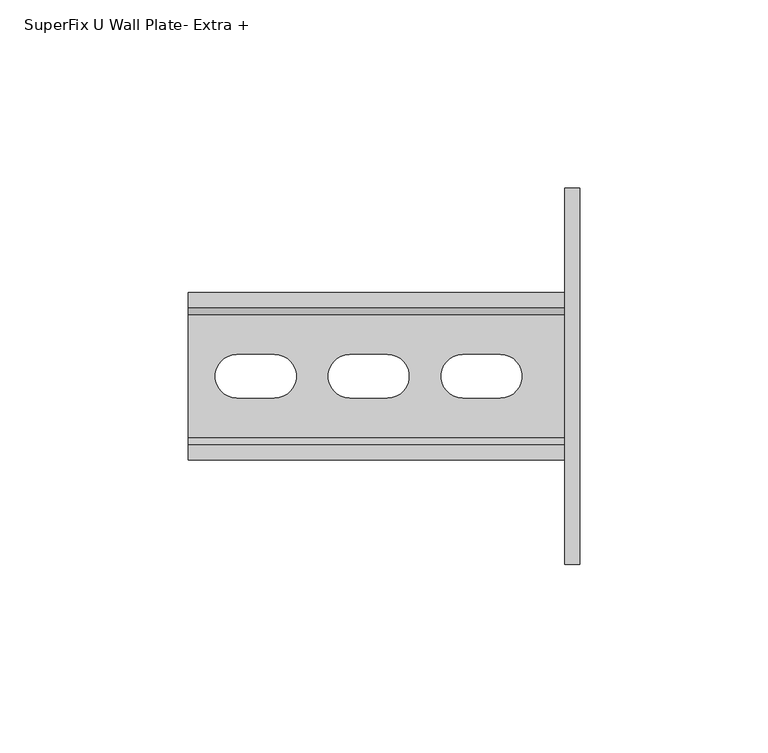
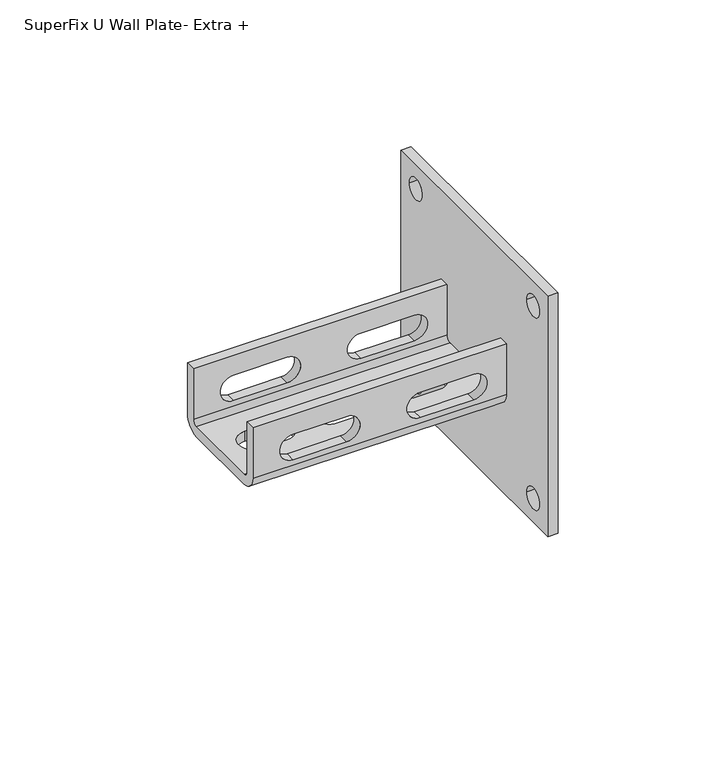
"""IFC4 building model written with IfcOpenShell, lengths in millimetres: valve geometry, SuperFix U Wall Plate  : SuperFix U Wall Plate- Extra +."""

from ifc_helpers import new_model, si_unit, point, frame, frame_2d, origin, place, context, project, spatial, polyline, circle_curve, trimmed, segment, composite_curve, outline, extrude, source, transform, mapped, element, save
from ifc_brep_helpers import plane_surface, cylinder_surface, revolved_surface, advanced_brep


def superfix_u_wall_plate_extra_745f4f27(model_context):
    return source(origin(), model_context, "Body", "SolidModel", [
        extrude(outline(polyline([(-50.0, 63.5), (50.0, 63.5), (50.0, -36.5), (-50.0, -36.5), (-50.0, 63.5)]), holes=[composite_curve([segment(trimmed(circle_curve(frame_2d((40.0, -26.5)), 4.4), [point((35.6, -26.5))], [point((44.4, -26.5))], True, "CARTESIAN"), True, "CONTINUOUS"), segment(trimmed(circle_curve(frame_2d((40.0, -26.5)), 4.4), [point((44.4, -26.5))], [point((35.6, -26.5))], True, "CARTESIAN"), True, "CONTINUOUS")], self_intersect=False), composite_curve([segment(trimmed(circle_curve(frame_2d((-40.0, -26.5)), 4.4), [point((-44.4, -26.5))], [point((-35.6, -26.5))], True, "CARTESIAN"), True, "CONTINUOUS"), segment(trimmed(circle_curve(frame_2d((-40.0, -26.5)), 4.4), [point((-35.6, -26.5))], [point((-44.4, -26.5))], True, "CARTESIAN"), True, "CONTINUOUS")], self_intersect=False), composite_curve([segment(trimmed(circle_curve(frame_2d((-40.0, 53.5)), 4.4), [point((-44.4, 53.5))], [point((-35.6, 53.5))], True, "CARTESIAN"), True, "CONTINUOUS"), segment(trimmed(circle_curve(frame_2d((-40.0, 53.5)), 4.4), [point((-35.6, 53.5))], [point((-44.4, 53.5))], True, "CARTESIAN"), True, "CONTINUOUS")], self_intersect=False), composite_curve([segment(trimmed(circle_curve(frame_2d((40.0, 53.5)), 4.4), [point((35.6, 53.5))], [point((44.4, 53.5))], True, "CARTESIAN"), True, "CONTINUOUS"), segment(trimmed(circle_curve(frame_2d((40.0, 53.5)), 4.4), [point((44.4, 53.5))], [point((35.6, 53.5))], True, "CARTESIAN"), True, "CONTINUOUS")], self_intersect=False)]), frame((-4.0, 0.0, 0.0), z_axis=(1.0, 0.0, 0.0), x_axis=(0.0, 1.0, 0.0)), (0.0, 0.0, 1.0), 4.0),
        advanced_brep(
        [(-4.0, -22.25, 6.0), (-4.0, -16.25, 0.0), (-4.0, 16.25, 0.0), (-4.0, 22.25, 6.0), (-4.0, 22.25, 27.0), (-4.0, 18.25, 27.0), (-4.0, 18.25, 6.0), (-4.0, 16.25, 4.0), (-4.0, -16.25, 4.0), (-4.0, -18.25, 6.0), (-4.0, -18.25, 27.0), (-4.0, -22.25, 27.0), (-104.0, -22.25, 6.0), (-104.0, -22.25, 27.0), (-104.0, -18.25, 27.0), (-104.0, -18.25, 6.0), (-104.0, -16.25, 4.0), (-104.0, 16.25, 4.0), (-104.0, 18.25, 6.0), (-104.0, 18.25, 27.0), (-104.0, 22.25, 27.0), (-104.0, 22.25, 6.0), (-104.0, 16.25, 0.0), (-104.0, -16.25, 0.0), (-61.0885659, 5.75, 0.0), (-61.0885659, -5.75, 0.0), (-51.0885659, -5.75, 0.0), (-51.0885659, 5.75, 0.0), (-31.0885659, 5.75, 0.0), (-31.0885659, -5.75, 0.0), (-21.0885659, -5.75, 0.0), (-21.0885659, 5.75, 0.0), (-91.0885659, 5.75, 0.0), (-91.0885659, -5.75, 0.0), (-81.0885659, -5.75, 0.0), (-81.0885659, 5.75, 0.0), (-17.1329383, 22.25, 18.75), (-38.1329383, 22.25, 18.75), (-38.1329383, 22.25, 8.2618096), (-17.1329383, 22.25, 8.2618096), (-67.1329383, 22.25, 18.75), (-88.1329383, 22.25, 18.75), (-88.1329383, 22.25, 8.2618096), (-67.1329383, 22.25, 8.2618096), (-38.1329383, 18.25, 18.75), (-17.1329383, 18.25, 18.75), (-17.1329383, 18.25, 8.2618096), (-38.1329383, 18.25, 8.2618096), (-88.1329383, 18.25, 18.75), (-67.1329383, 18.25, 18.75), (-67.1329383, 18.25, 8.2618096), (-88.1329383, 18.25, 8.2618096), (-61.0885659, -5.75, 4.0), (-61.0885659, 5.75, 4.0), (-51.0885659, 5.75, 4.0), (-51.0885659, -5.75, 4.0), (-31.0885659, -5.75, 4.0), (-31.0885659, 5.75, 4.0), (-21.0885659, 5.75, 4.0), (-21.0885659, -5.75, 4.0), (-91.0885659, -5.75, 4.0), (-91.0885659, 5.75, 4.0), (-81.0885659, 5.75, 4.0), (-81.0885659, -5.75, 4.0), (-17.1329383, -18.25, 18.75), (-38.1329383, -18.25, 18.75), (-38.1329383, -18.25, 8.2618096), (-17.1329383, -18.25, 8.2618096), (-67.1329383, -18.25, 18.75), (-88.1329383, -18.25, 18.75), (-88.1329383, -18.25, 8.2618096), (-67.1329383, -18.25, 8.2618096), (-38.1329383, -22.25, 18.75), (-17.1329383, -22.25, 18.75), (-17.1329383, -22.25, 8.2618096), (-38.1329383, -22.25, 8.2618096), (-88.1329383, -22.25, 18.75), (-67.1329383, -22.25, 18.75), (-67.1329383, -22.25, 8.2618096), (-88.1329383, -22.25, 8.2618096)],
        [
            (0, 1, circle_curve(frame((-4.0, -16.25, 6.0), z_axis=(1.0, 0.0, 0.0), x_axis=(0.0, 1.0, 0.0)), 6.0)),
            (1, 2),
            (2, 3, circle_curve(frame((-4.0, 16.25, 6.0), z_axis=(1.0, 0.0, 0.0), x_axis=(0.0, 1.0, 0.0)), 6.0)),
            (3, 4),
            (4, 5),
            (5, 6),
            (6, 7, circle_curve(frame((-4.0, 16.25, 6.0), z_axis=(-1.0, 0.0, 0.0), x_axis=(0.0, 1.0, 0.0)), 2.0)),
            (7, 8),
            (8, 9, circle_curve(frame((-4.0, -16.25, 6.0), z_axis=(-1.0, 0.0, 0.0), x_axis=(0.0, 1.0, 0.0)), 2.0)),
            (9, 10),
            (10, 11),
            (11, 0),
            (12, 13),
            (13, 14),
            (14, 15),
            (15, 16, circle_curve(frame((-104.0, -16.25, 6.0), z_axis=(1.0, 0.0, 0.0), x_axis=(0.0, 1.0, 0.0)), 2.0)),
            (16, 17),
            (17, 18, circle_curve(frame((-104.0, 16.25, 6.0), z_axis=(1.0, 0.0, 0.0), x_axis=(0.0, 1.0, 0.0)), 2.0)),
            (18, 19),
            (19, 20),
            (20, 21),
            (21, 22, circle_curve(frame((-104.0, 16.25, 6.0), z_axis=(-1.0, 0.0, 0.0), x_axis=(0.0, 1.0, 0.0)), 6.0)),
            (22, 23),
            (23, 12, circle_curve(frame((-104.0, -16.25, 6.0), z_axis=(-1.0, 0.0, 0.0), x_axis=(0.0, 1.0, 0.0)), 6.0)),
            (1, 23),
            (22, 2),
            (24, 25, circle_curve(frame((-61.0885659, 0.0, 0.0), z_axis=(0.0, 0.0, 1.0), x_axis=(1.0, 0.0, 0.0)), 5.75)),
            (25, 26),
            (26, 27, circle_curve(frame((-51.0885659, 0.0, 0.0), z_axis=(0.0, 0.0, 1.0), x_axis=(1.0, 0.0, 0.0)), 5.75)),
            (27, 24),
            (28, 29, circle_curve(frame((-31.0885659, 0.0, 0.0), z_axis=(0.0, 0.0, 1.0), x_axis=(1.0, 0.0, 0.0)), 5.75)),
            (29, 30),
            (30, 31, circle_curve(frame((-21.0885659, 0.0, 0.0), z_axis=(0.0, 0.0, 1.0), x_axis=(1.0, 0.0, 0.0)), 5.75)),
            (31, 28),
            (32, 33, circle_curve(frame((-91.0885659, 0.0, 0.0), z_axis=(0.0, 0.0, 1.0), x_axis=(1.0, 0.0, 0.0)), 5.75)),
            (33, 34),
            (34, 35, circle_curve(frame((-81.0885659, 0.0, 0.0), z_axis=(0.0, 0.0, 1.0), x_axis=(1.0, 0.0, 0.0)), 5.75)),
            (35, 32),
            (3, 21),
            (20, 4),
            (36, 37),
            (37, 38, circle_curve(frame((-38.1329383, 22.25, 13.5059048), z_axis=(0.0, -1.0, 0.0), x_axis=(0.0, 0.0, 1.0)), 5.2440952)),
            (38, 39),
            (39, 36, circle_curve(frame((-17.1329383, 22.25, 13.5059048), z_axis=(0.0, -1.0, 0.0), x_axis=(0.0, 0.0, 1.0)), 5.2440952)),
            (40, 41),
            (41, 42, circle_curve(frame((-88.1329383, 22.25, 13.5059048), z_axis=(0.0, -1.0, 0.0), x_axis=(0.0, 0.0, 1.0)), 5.2440952)),
            (42, 43),
            (43, 40, circle_curve(frame((-67.1329383, 22.25, 13.5059048), z_axis=(0.0, -1.0, 0.0), x_axis=(0.0, 0.0, 1.0)), 5.2440952)),
            (5, 19),
            (18, 6),
            (44, 45),
            (45, 46, circle_curve(frame((-17.1329383, 18.25, 13.5059048), z_axis=(0.0, 1.0, 0.0), x_axis=(0.0, 0.0, 1.0)), 5.2440952)),
            (46, 47),
            (47, 44, circle_curve(frame((-38.1329383, 18.25, 13.5059048), z_axis=(0.0, 1.0, 0.0), x_axis=(0.0, 0.0, 1.0)), 5.2440952)),
            (48, 49),
            (49, 50, circle_curve(frame((-67.1329383, 18.25, 13.5059048), z_axis=(0.0, 1.0, 0.0), x_axis=(0.0, 0.0, 1.0)), 5.2440952)),
            (50, 51),
            (51, 48, circle_curve(frame((-88.1329383, 18.25, 13.5059048), z_axis=(0.0, 1.0, 0.0), x_axis=(0.0, 0.0, 1.0)), 5.2440952)),
            (7, 17),
            (16, 8),
            (52, 53, circle_curve(frame((-61.0885659, 0.0, 4.0), z_axis=(0.0, 0.0, -1.0), x_axis=(1.0, 0.0, 0.0)), 5.75)),
            (53, 54),
            (54, 55, circle_curve(frame((-51.0885659, 0.0, 4.0), z_axis=(0.0, 0.0, -1.0), x_axis=(1.0, 0.0, 0.0)), 5.75)),
            (55, 52),
            (56, 57, circle_curve(frame((-31.0885659, 0.0, 4.0), z_axis=(0.0, 0.0, -1.0), x_axis=(1.0, 0.0, 0.0)), 5.75)),
            (57, 58),
            (58, 59, circle_curve(frame((-21.0885659, 0.0, 4.0), z_axis=(0.0, 0.0, -1.0), x_axis=(1.0, 0.0, 0.0)), 5.75)),
            (59, 56),
            (60, 61, circle_curve(frame((-91.0885659, 0.0, 4.0), z_axis=(0.0, 0.0, -1.0), x_axis=(1.0, 0.0, 0.0)), 5.75)),
            (61, 62),
            (62, 63, circle_curve(frame((-81.0885659, 0.0, 4.0), z_axis=(0.0, 0.0, -1.0), x_axis=(1.0, 0.0, 0.0)), 5.75)),
            (63, 60),
            (9, 15),
            (14, 10),
            (64, 65),
            (65, 66, circle_curve(frame((-38.1329383, -18.25, 13.5059048), z_axis=(0.0, -1.0, 0.0), x_axis=(0.0, 0.0, 1.0)), 5.2440952)),
            (66, 67),
            (67, 64, circle_curve(frame((-17.1329383, -18.25, 13.5059048), z_axis=(0.0, -1.0, 0.0), x_axis=(0.0, 0.0, 1.0)), 5.2440952)),
            (68, 69),
            (69, 70, circle_curve(frame((-88.1329383, -18.25, 13.5059048), z_axis=(0.0, -1.0, 0.0), x_axis=(0.0, 0.0, 1.0)), 5.2440952)),
            (70, 71),
            (71, 68, circle_curve(frame((-67.1329383, -18.25, 13.5059048), z_axis=(0.0, -1.0, 0.0), x_axis=(0.0, 0.0, 1.0)), 5.2440952)),
            (11, 13),
            (12, 0),
            (72, 73),
            (73, 74, circle_curve(frame((-17.1329383, -22.25, 13.5059048), z_axis=(0.0, 1.0, 0.0), x_axis=(0.0, 0.0, 1.0)), 5.2440952)),
            (74, 75),
            (75, 72, circle_curve(frame((-38.1329383, -22.25, 13.5059048), z_axis=(0.0, 1.0, 0.0), x_axis=(0.0, 0.0, 1.0)), 5.2440952)),
            (76, 77),
            (77, 78, circle_curve(frame((-67.1329383, -22.25, 13.5059048), z_axis=(0.0, 1.0, 0.0), x_axis=(0.0, 0.0, 1.0)), 5.2440952)),
            (78, 79),
            (79, 76, circle_curve(frame((-88.1329383, -22.25, 13.5059048), z_axis=(0.0, 1.0, 0.0), x_axis=(0.0, 0.0, 1.0)), 5.2440952)),
            (24, 53),
            (52, 25),
            (55, 26),
            (54, 27),
            (28, 57),
            (56, 29),
            (59, 30),
            (58, 31),
            (32, 61),
            (60, 33),
            (63, 34),
            (62, 35),
            (44, 37),
            (36, 45),
            (72, 65),
            (64, 73),
            (39, 46),
            (67, 74),
            (38, 47),
            (66, 75),
            (48, 41),
            (40, 49),
            (76, 69),
            (68, 77),
            (43, 50),
            (71, 78),
            (42, 51),
            (70, 79),
        ],
        [
            plane_surface(frame((-4.0, -10.25, 6.0), z_axis=(1.0, 0.0, 0.0), x_axis=(0.0, 0.0, 1.0))),
            plane_surface(frame((-104.0, -10.25, 6.0), z_axis=(-1.0, 0.0, 0.0), x_axis=(0.0, 0.0, -1.0))),
            plane_surface(frame((-4.0, -16.25, 0.0), z_axis=(0.0, 0.0, -1.0), x_axis=(-1.0, 0.0, 0.0))),
            plane_surface(frame((-4.0, 22.25, 6.0), z_axis=(0.0, 1.0, 0.0), x_axis=(-1.0, 0.0, 0.0))),
            plane_surface(frame((-4.0, 18.25, 27.0), z_axis=(0.0, -1.0, 0.0), x_axis=(-1.0, 0.0, 0.0))),
            plane_surface(frame((-4.0, 16.25, 4.0), z_axis=(0.0, 0.0, 1.0), x_axis=(-1.0, 0.0, 0.0))),
            plane_surface(frame((-4.0, -18.25, 6.0), z_axis=(0.0, 1.0, 0.0), x_axis=(-1.0, 0.0, 0.0))),
            plane_surface(frame((-4.0, -22.25, 27.0), z_axis=(0.0, -1.0, 0.0), x_axis=(-1.0, 0.0, 0.0))),
            cylinder_surface(frame((-104.0, -16.25, 6.0), z_axis=(1.0, 0.0, 0.0), x_axis=(0.0, 1.0, 0.0)), 6.0),
            cylinder_surface(frame((-104.0, 16.25, 6.0), z_axis=(1.0, 0.0, 0.0), x_axis=(0.0, 1.0, 0.0)), 6.0),
            plane_surface(frame((-4.0, 22.25, 27.0), z_axis=(0.0, 0.0, 1.0), x_axis=(-1.0, 0.0, 0.0))),
            revolved_surface(polyline([(-104.0, 18.25, 6.0), (-4.0, 18.25, 6.0)]), (-104.0, 16.25, 6.0), (-1.0, 0.0, 0.0)),
            revolved_surface(polyline([(-104.0, -14.25, 6.0), (-4.0, -14.25, 6.0)]), (-104.0, -16.25, 6.0), (-1.0, 0.0, 0.0)),
            plane_surface(frame((-4.0, -18.25, 27.0), z_axis=(0.0, 0.0, 1.0), x_axis=(-1.0, 0.0, 0.0))),
            revolved_surface(polyline([(-55.3385659, 0.0, 4.0), (-55.3385659, 0.0, 0.0)]), (-61.0885659, 0.0, 0.0), (0.0, 0.0, 1.0)),
            plane_surface(frame((-61.0885659, -5.75, 5.0), z_axis=(0.0, 1.0, 0.0), x_axis=(0.0, 0.0, -1.0))),
            revolved_surface(polyline([(-45.3385659, 0.0, 4.0), (-45.3385659, 0.0, 0.0)]), (-51.0885659, 0.0, 0.0), (0.0, 0.0, 1.0)),
            plane_surface(frame((-51.0885659, 5.75, 5.0), z_axis=(0.0, -1.0, 0.0), x_axis=(0.0, 0.0, -1.0))),
            revolved_surface(polyline([(-25.3385659, 0.0, 4.0), (-25.3385659, 0.0, 0.0)]), (-31.0885659, 0.0, 0.0), (0.0, 0.0, 1.0)),
            plane_surface(frame((-31.0885659, -5.75, 5.0), z_axis=(0.0, 1.0, 0.0), x_axis=(0.0, 0.0, -1.0))),
            revolved_surface(polyline([(-15.338565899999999, 0.0, 4.0), (-15.338565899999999, 0.0, 0.0)]), (-21.0885659, 0.0, 0.0), (0.0, 0.0, 1.0)),
            plane_surface(frame((-21.0885659, 5.75, 5.0), z_axis=(0.0, -1.0, 0.0), x_axis=(0.0, 0.0, -1.0))),
            revolved_surface(polyline([(-85.3385659, 0.0, 4.0), (-85.3385659, 0.0, 0.0)]), (-91.0885659, 0.0, 0.0), (0.0, 0.0, 1.0)),
            plane_surface(frame((-91.0885659, -5.75, 5.0), z_axis=(0.0, 1.0, 0.0), x_axis=(0.0, 0.0, -1.0))),
            revolved_surface(polyline([(-75.3385659, 0.0, 4.0), (-75.3385659, 0.0, 0.0)]), (-81.0885659, 0.0, 0.0), (0.0, 0.0, 1.0)),
            plane_surface(frame((-81.0885659, 5.75, 5.0), z_axis=(0.0, -1.0, 0.0), x_axis=(0.0, 0.0, -1.0))),
            plane_surface(frame((-38.1329383, 22.25, 18.75), z_axis=(0.0, 0.0, -1.0), x_axis=(0.0, -1.0, 0.0))),
            revolved_surface(polyline([(-17.1329383, 22.25, 18.75), (-17.1329383, 18.25, 18.75)]), (-17.1329383, -22.25, 13.5059048), (0.0, 1.0, 0.0)),
            revolved_surface(polyline([(-17.1329383, -18.25, 18.75), (-17.1329383, -22.25, 18.75)]), (-17.1329383, -22.25, 13.5059048), (0.0, 1.0, 0.0)),
            plane_surface(frame((-17.1329383, 22.25, 8.2618096), z_axis=(0.0, 0.0, 1.0), x_axis=(0.0, -1.0, 0.0))),
            revolved_surface(polyline([(-38.1329383, 22.25, 18.75), (-38.1329383, 18.25, 18.75)]), (-38.1329383, -22.25, 13.5059048), (0.0, 1.0, 0.0)),
            revolved_surface(polyline([(-38.1329383, -18.25, 18.75), (-38.1329383, -22.25, 18.75)]), (-38.1329383, -22.25, 13.5059048), (0.0, 1.0, 0.0)),
            plane_surface(frame((-88.1329383, 22.25, 18.75), z_axis=(0.0, 0.0, -1.0), x_axis=(0.0, -1.0, 0.0))),
            revolved_surface(polyline([(-67.1329383, 22.25, 18.75), (-67.1329383, 18.25, 18.75)]), (-67.1329383, -22.25, 13.5059048), (0.0, 1.0, 0.0)),
            revolved_surface(polyline([(-67.1329383, -18.25, 18.75), (-67.1329383, -22.25, 18.75)]), (-67.1329383, -22.25, 13.5059048), (0.0, 1.0, 0.0)),
            plane_surface(frame((-67.1329383, 22.25, 8.2618096), z_axis=(0.0, 0.0, 1.0), x_axis=(0.0, -1.0, 0.0))),
            revolved_surface(polyline([(-88.1329383, 22.25, 18.75), (-88.1329383, 18.25, 18.75)]), (-88.1329383, -22.25, 13.5059048), (0.0, 1.0, 0.0)),
            revolved_surface(polyline([(-88.1329383, -18.25, 18.75), (-88.1329383, -22.25, 18.75)]), (-88.1329383, -22.25, 13.5059048), (0.0, 1.0, 0.0)),
        ],
        [
            (0, [[1, 2, 3, 4, 5, 6, 7, 8, 9, 10, 11, 12]]),
            (1, [[13, 14, 15, 16, 17, 18, 19, 20, 21, 22, 23, 24]]),
            (2, [[-2, 25, -23, 26], [27, 28, 29, 30], [31, 32, 33, 34], [35, 36, 37, 38]]),
            (3, [[-4, 39, -21, 40], [41, 42, 43, 44], [45, 46, 47, 48]]),
            (4, [[-6, 49, -19, 50], [51, 52, 53, 54], [55, 56, 57, 58]]),
            (5, [[-8, 59, -17, 60], [61, 62, 63, 64], [65, 66, 67, 68], [69, 70, 71, 72]]),
            (6, [[-10, 73, -15, 74], [75, 76, 77, 78], [79, 80, 81, 82]]),
            (7, [[-12, 83, -13, 84], [85, 86, 87, 88], [89, 90, 91, 92]]),
            (8, [[-1, -84, -24, -25]]),
            (9, [[-3, -26, -22, -39]]),
            (10, [[-5, -40, -20, -49]]),
            (11, [[-7, -50, -18, -59]]),
            (12, [[-9, -60, -16, -73]]),
            (13, [[-11, -74, -14, -83]]),
            (14, [[93, -61, 94, -27]]),
            (15, [[-94, -64, 95, -28]]),
            (16, [[-95, -63, 96, -29]]),
            (17, [[-93, -30, -96, -62]]),
            (18, [[97, -65, 98, -31]]),
            (19, [[-98, -68, 99, -32]]),
            (20, [[-99, -67, 100, -33]]),
            (21, [[-97, -34, -100, -66]]),
            (22, [[101, -69, 102, -35]]),
            (23, [[-102, -72, 103, -36]]),
            (24, [[-103, -71, 104, -37]]),
            (25, [[-101, -38, -104, -70]]),
            (26, [[105, -41, 106, -51]]),
            (26, [[107, -75, 108, -85]]),
            (27, [[-106, -44, 109, -52]]),
            (28, [[-108, -78, 110, -86]]),
            (29, [[-109, -43, 111, -53]]),
            (29, [[-110, -77, 112, -87]]),
            (30, [[-105, -54, -111, -42]]),
            (31, [[-107, -88, -112, -76]]),
            (32, [[113, -45, 114, -55]]),
            (32, [[115, -79, 116, -89]]),
            (33, [[-114, -48, 117, -56]]),
            (34, [[-116, -82, 118, -90]]),
            (35, [[-117, -47, 119, -57]]),
            (35, [[-118, -81, 120, -91]]),
            (36, [[-113, -58, -119, -46]]),
            (37, [[-115, -92, -120, -80]]),
        ],
    ),
    ])


if __name__ == "__main__":
    model = new_model("IFC4")
    model_context = context("Model", 3, world=origin())
    ifc_project = project(units=[si_unit("LENGTHUNIT", "METRE", prefix="MILLI")], contexts=[model_context])
    site = spatial("IfcSite", under=ifc_project)
    building = spatial("IfcBuilding", under=site)
    placement = place(None, origin())
    superfix_u_wall_plate_extra_shape = superfix_u_wall_plate_extra_745f4f27(model_context)
    element("IfcValve", 1, ObjectType="SuperFix U Wall Plate  : SuperFix U Wall Plate- Extra +", at=placement, inside=building, context=model_context, shape_type="MappedRepresentation", body=[
        mapped(superfix_u_wall_plate_extra_shape, transform((0.0, 0.0, 0.0), x_axis=(1.0, 0.0, 0.0), y_axis=(0.0, 1.0, 0.0), z_axis=(0.0, 0.0, 1.0))),
    ])
    save(model, "model.ifc")
